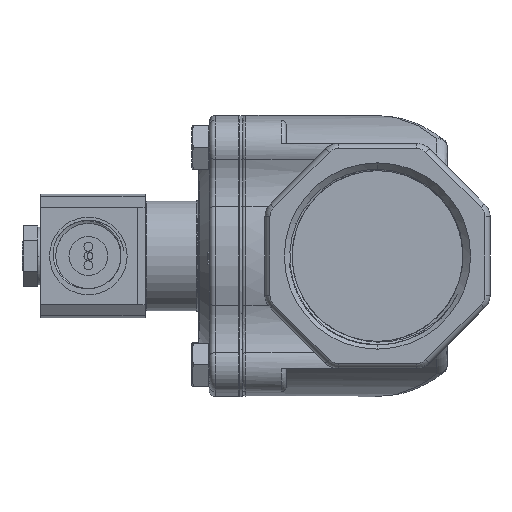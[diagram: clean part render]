
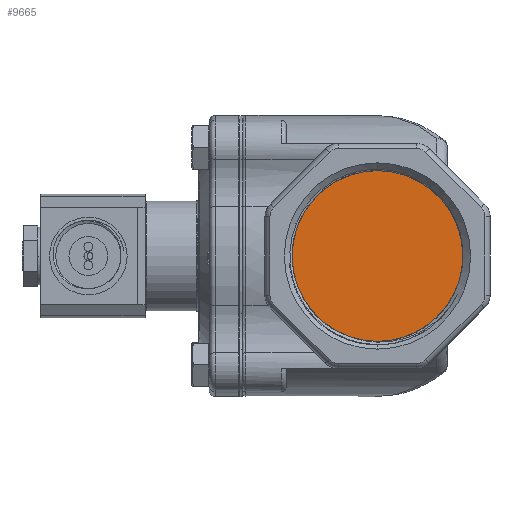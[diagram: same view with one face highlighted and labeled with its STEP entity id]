
A CAD part, left-side view. The second image highlights one B-rep face of the part: STEP entity #9665.
In plain terms, the highlighted planar face has unit normal (-1, 0, 0).
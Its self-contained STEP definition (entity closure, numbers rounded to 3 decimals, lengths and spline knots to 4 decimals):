
#1572 = DIRECTION ( 'NONE',  ( 1., 0., 0. ) ) ;
#3385 = AXIS2_PLACEMENT_3D ( 'NONE', #21815, #59614, #40560 ) ;
#3603 = AXIS2_PLACEMENT_3D ( 'NONE', #6493, #1572, #10816 ) ;
#4249 = CARTESIAN_POINT ( 'NONE',  ( -1.875, -2.8437, -0.1768 ) ) ;
#4435 = PLANE ( 'NONE',  #5975 ) ;
#5074 = VERTEX_POINT ( 'NONE', #25321 ) ;
#5975 = AXIS2_PLACEMENT_3D ( 'NONE', #24999, #47751, #11169 ) ;
#6493 = CARTESIAN_POINT ( 'NONE',  ( -1.875, -1.758, 0. ) ) ;
#6613 = DIRECTION ( 'NONE',  ( 0., 0., -1. ) ) ;
#7388 = DIRECTION ( 'NONE',  ( 1., 0., 0. ) ) ;
#9665 = ADVANCED_FACE ( 'Defeatured_0_290', ( #27796 ), #4435, .F. ) ;
#10556 = EDGE_CURVE ( 'NONE', #5074, #20050, #40902, .T. ) ;
#10816 = DIRECTION ( 'NONE',  ( 0., 0., -1. ) ) ;
#11169 = DIRECTION ( 'NONE',  ( 0., 0., -1. ) ) ;
#15654 = CARTESIAN_POINT ( 'NONE',  ( -1.875, -1.758, 1.1 ) ) ;
#16181 = CIRCLE ( 'NONE', #3385, 1.1 ) ;
#16891 = AXIS2_PLACEMENT_3D ( 'NONE', #34589, #53321, #6613 ) ;
#18362 = CARTESIAN_POINT ( 'NONE',  ( -1.875, -1.758, -1.1 ) ) ;
#20050 = VERTEX_POINT ( 'NONE', #4249 ) ;
#21518 = DIRECTION ( 'NONE',  ( 0., 0., -1. ) ) ;
#21726 = ORIENTED_EDGE ( 'NONE', *, *, #10556, .F. ) ;
#21815 = CARTESIAN_POINT ( 'NONE',  ( -1.875, -1.758, 0. ) ) ;
#24999 = CARTESIAN_POINT ( 'NONE',  ( -1.875, -1.758, 0. ) ) ;
#25321 = CARTESIAN_POINT ( 'NONE',  ( -1.875, -1.939, 1.085 ) ) ;
#27696 = VERTEX_POINT ( 'NONE', #15654 ) ;
#27796 = FACE_OUTER_BOUND ( 'NONE', #59672, .T. ) ;
#34589 = CARTESIAN_POINT ( 'NONE',  ( -1.875, -1.758, 0. ) ) ;
#34959 = ORIENTED_EDGE ( 'NONE', *, *, #42875, .F. ) ;
#35535 = CIRCLE ( 'NONE', #16891, 1.1 ) ;
#36514 = EDGE_CURVE ( 'NONE', #20050, #37856, #35535, .T. ) ;
#37856 = VERTEX_POINT ( 'NONE', #18362 ) ;
#39909 = ORIENTED_EDGE ( 'NONE', *, *, #36514, .F. ) ;
#40560 = DIRECTION ( 'NONE',  ( 0., 0., -1. ) ) ;
#40902 = CIRCLE ( 'NONE', #58585, 1.1 ) ;
#42875 = EDGE_CURVE ( 'NONE', #37856, #27696, #16181, .T. ) ;
#47751 = DIRECTION ( 'NONE',  ( 1., 0., 0. ) ) ;
#50130 = ORIENTED_EDGE ( 'NONE', *, *, #51265, .F. ) ;
#50672 = CIRCLE ( 'NONE', #3603, 1.1 ) ;
#51265 = EDGE_CURVE ( 'NONE', #27696, #5074, #50672, .T. ) ;
#53321 = DIRECTION ( 'NONE',  ( 1., 0., 0. ) ) ;
#53792 = CARTESIAN_POINT ( 'NONE',  ( -1.875, -1.758, 0. ) ) ;
#58585 = AXIS2_PLACEMENT_3D ( 'NONE', #53792, #7388, #21518 ) ;
#59614 = DIRECTION ( 'NONE',  ( 1., 0., 0. ) ) ;
#59672 = EDGE_LOOP ( 'NONE', ( #21726, #50130, #34959, #39909 ) ) ;
